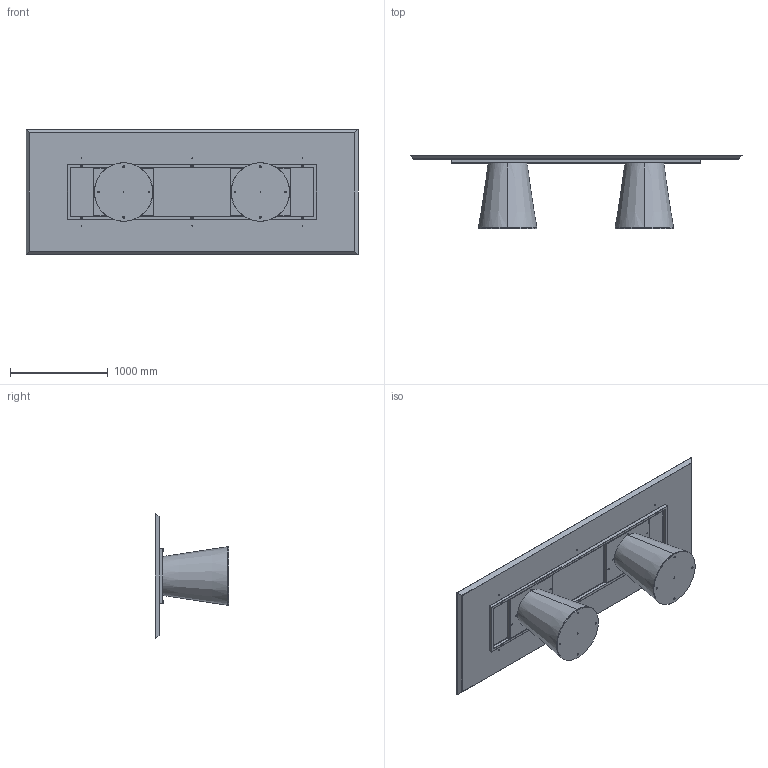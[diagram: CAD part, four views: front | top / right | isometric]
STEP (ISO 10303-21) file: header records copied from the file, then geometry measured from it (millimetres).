
FILE_DESCRIPTION (( 'STEP AP203' ), '1' );
FILE_NAME ('TO26W_Teo_340x128_Wood Rectangular.STEP', '2024-08-02T09:36:24', ( '' ), ( '' ), 'SwSTEP 2.0', 'SolidWorks 2022', '' );
FILE_SCHEMA (( 'CONFIG_CONTROL_DESIGN' ));
Length unit declared in the file: millimetre
Products named in the file (12): TTAV03-06-TELAIO UNIVERSALE X TAVOLI 300-340cm; W2XCMXX-00-Piani Rettangolari in legno_3400 x 1280; TTAV03_02-06-VASSOIO IRRIGIDIMENTO TELAIO UNIVERSALE RETTANGOLARE; TEO0000-00-TEO BASE LEGNO IMPIALLACCIATA LEVIGATO PRONTA X VERNICE; COLLO TELAIO UNIVERSALE TTAV03 CON FERRAMENTA_MTG TOP LEGNO-MARMO-KING; BASE TED LEGNO CON ZAVORRA; M8xXXmm_hex_M8X20mm; rondella M8_8X24; TO26W_Teo_340x128_Wood Rectangular; TTAV03_01-06-RING TUBO TELAIO UNIVERSALE X TAVOLI 300-340cm; TEO000000PIA-00-TEO PIASTRA DI BASE IN METALLO GREZZO; M8xXXmm_M8x55mm
Assembly tree (26 placements, depth 4):
  TO26W_Teo_340x128_Wood Rectangular
    BASE TED LEGNO CON ZAVORRA  x2
      TEO000000PIA-00-TEO PIASTRA DI BASE IN METALLO GREZZO
      TEO0000-00-TEO BASE LEGNO IMPIALLACCIATA LEVIGATO PRONTA X VERNICE
      M8xXXmm_hex_M8X20mm
    COLLO TELAIO UNIVERSALE TTAV03 CON FERRAMENTA_MTG TOP LEGNO-MARMO-KING
      TTAV03-06-TELAIO UNIVERSALE X TAVOLI 300-340cm
        TTAV03_01-06-RING TUBO TELAIO UNIVERSALE X TAVOLI 300-340cm
        TTAV03_02-06-VASSOIO IRRIGIDIMENTO TELAIO UNIVERSALE RETTANGOLARE  x2
      rondella M8_8X24  x6
      M8xXXmm_M8x55mm  x6
    W2XCMXX-00-Piani Rettangolari in legno_3400 x 1280
Bounding box: 3400 x 751.19 x 1280 mm (x, y, z)
Volume: 220209988.5 mm3; surface area: 18504817.7 mm2
Topology: 28 solids, 28 shells, 1104 faces, 2532 edges, 1456 vertices
Faces by surface type: plane 494, cylinder 320, cone 194, torus 88, sphere 8
Entity records: 14739 total; most frequent: DIRECTION 2377, CARTESIAN_POINT 2309, ORIENTED_EDGE 2116, EDGE_CURVE 1058, AXIS2_PLACEMENT_3D 881, VERTEX_POINT 647, VECTOR 615, LINE 615
